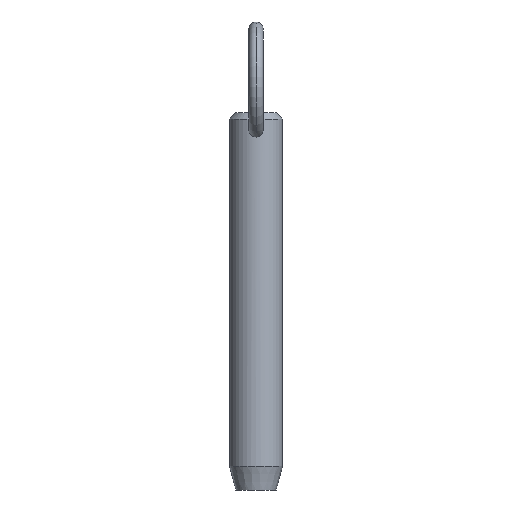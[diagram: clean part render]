
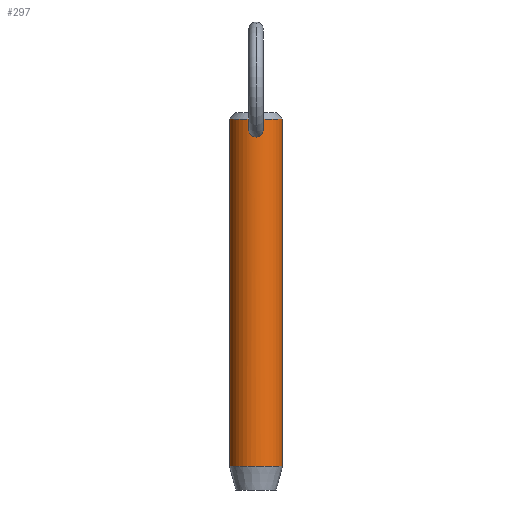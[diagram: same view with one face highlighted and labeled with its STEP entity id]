
A CAD part, front view. The second image highlights one B-rep face of the part: STEP entity #297.
In plain terms, the highlighted cylindrical face has radius 5.55 mm (diameter 11.1 mm), a partial arc.
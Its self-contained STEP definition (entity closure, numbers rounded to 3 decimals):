
#2 = VECTOR ( 'NONE', #19, 1000. ) ;
#5 = DIRECTION ( 'NONE',  ( 0., 0., 1. ) ) ;
#6 = CARTESIAN_POINT ( 'NONE',  ( -5.55, 0., 58.4 ) ) ;
#9 = CARTESIAN_POINT ( 'NONE',  ( -1.26, -5.407, 60.342 ) ) ;
#14 = CARTESIAN_POINT ( 'NONE',  ( 0.941, -5.471, 62.707 ) ) ;
#18 = CARTESIAN_POINT ( 'NONE',  ( -1.5, -5.343, 61.153 ) ) ;
#19 = DIRECTION ( 'NONE',  ( 0., 0., -1. ) ) ;
#21 = CARTESIAN_POINT ( 'NONE',  ( 0., -5.55, 63.145 ) ) ;
#23 = CARTESIAN_POINT ( 'NONE',  ( -1.503, -5.343, 61.259 ) ) ;
#26 = LINE ( 'NONE', #6, #390 ) ;
#28 = CARTESIAN_POINT ( 'NONE',  ( 1.486, -5.347, 61.574 ) ) ;
#35 = CIRCLE ( 'NONE', #317, 5.55 ) ;
#40 = DIRECTION ( 'NONE',  ( 0., 0., -1. ) ) ;
#41 = ORIENTED_EDGE ( 'NONE', *, *, #394, .T. ) ;
#42 = EDGE_CURVE ( 'NONE', #466, #81, #293, .T. ) ;
#49 = VERTEX_POINT ( 'NONE', #336 ) ;
#50 = CARTESIAN_POINT ( 'NONE',  ( -0.107, -5.55, 59.677 ) ) ;
#59 = CARTESIAN_POINT ( 'NONE',  ( 1.295, -5.397, 62.182 ) ) ;
#66 = CARTESIAN_POINT ( 'NONE',  ( 5.55, 0., 63.45 ) ) ;
#72 = ORIENTED_EDGE ( 'NONE', *, *, #140, .F. ) ;
#79 = ORIENTED_EDGE ( 'NONE', *, *, #174, .T. ) ;
#81 = VERTEX_POINT ( 'NONE', #500 ) ;
#99 = CARTESIAN_POINT ( 'NONE',  ( 0., 0., 58.4 ) ) ;
#105 = CARTESIAN_POINT ( 'NONE',  ( -0.416, -5.535, 63.067 ) ) ;
#106 = CARTESIAN_POINT ( 'NONE',  ( 0.515, -5.527, 63.022 ) ) ;
#112 = CYLINDRICAL_SURFACE ( 'NONE', #114, 5.55 ) ;
#114 = AXIS2_PLACEMENT_3D ( 'NONE', #99, #181, #258 ) ;
#118 = EDGE_CURVE ( 'NONE', #165, #331, #35, .T. ) ;
#130 = CARTESIAN_POINT ( 'NONE',  ( -5.55, 0., -9.2 ) ) ;
#140 = EDGE_CURVE ( 'NONE', #165, #81, #483, .T. ) ;
#145 = DIRECTION ( 'NONE',  ( 0., 0., -1. ) ) ;
#151 = ORIENTED_EDGE ( 'NONE', *, *, #344, .T. ) ;
#152 = CARTESIAN_POINT ( 'NONE',  ( -1.477, -5.35, 60.942 ) ) ;
#153 = CARTESIAN_POINT ( 'NONE',  ( 0., 0., 63.45 ) ) ;
#161 = B_SPLINE_CURVE_WITH_KNOTS ( 'NONE', 3,
 ( #218, #188, #262, #386, #106, #420, #14, #306, #59, #232, #28, #521, #429, #426, #477, #239, #393, #519, #278, #319, #281, #191, #320, #195, #234, #516 ),
 .UNSPECIFIED., .F., .F.,
 ( 4, 2, 2, 2, 2, 2, 2, 2, 2, 2, 2, 2, 4 ),
 ( 0.005, 0.005, 0.005, 0.006, 0.006, 0.007, 0.007, 0.008, 0.008, 0.009, 0.009, 0.009, 0.01 ),
 .UNSPECIFIED. ) ;
#165 = VERTEX_POINT ( 'NONE', #66 ) ;
#174 = EDGE_CURVE ( 'NONE', #391, #49, #161, .T. ) ;
#181 = DIRECTION ( 'NONE',  ( 0., 0., -1. ) ) ;
#188 = CARTESIAN_POINT ( 'NONE',  ( 0.106, -5.55, 63.145 ) ) ;
#189 = FACE_BOUND ( 'NONE', #486, .T. ) ;
#191 = CARTESIAN_POINT ( 'NONE',  ( 0.523, -5.526, 59.766 ) ) ;
#195 = CARTESIAN_POINT ( 'NONE',  ( 0.213, -5.547, 59.688 ) ) ;
#206 = AXIS2_PLACEMENT_3D ( 'NONE', #496, #5, #298 ) ;
#213 = FACE_OUTER_BOUND ( 'NONE', #294, .T. ) ;
#217 = CARTESIAN_POINT ( 'NONE',  ( 0., -5.55, 59.677 ) ) ;
#218 = CARTESIAN_POINT ( 'NONE',  ( 0., -5.55, 63.145 ) ) ;
#222 = CARTESIAN_POINT ( 'NONE',  ( -1.485, -5.348, 61.579 ) ) ;
#224 = CARTESIAN_POINT ( 'NONE',  ( -1.294, -5.398, 62.186 ) ) ;
#232 = CARTESIAN_POINT ( 'NONE',  ( 1.44, -5.36, 61.786 ) ) ;
#234 = CARTESIAN_POINT ( 'NONE',  ( 0.107, -5.55, 59.677 ) ) ;
#239 = CARTESIAN_POINT ( 'NONE',  ( 1.363, -5.38, 60.534 ) ) ;
#249 = CARTESIAN_POINT ( 'NONE',  ( 0., -5.55, 63.145 ) ) ;
#258 = DIRECTION ( 'NONE',  ( -1., 0., 0. ) ) ;
#259 = ORIENTED_EDGE ( 'NONE', *, *, #42, .T. ) ;
#261 = CARTESIAN_POINT ( 'NONE',  ( -0.807, -5.492, 59.905 ) ) ;
#262 = CARTESIAN_POINT ( 'NONE',  ( 0.214, -5.547, 63.128 ) ) ;
#270 = CARTESIAN_POINT ( 'NONE',  ( -1.455, -5.356, 60.836 ) ) ;
#278 = CARTESIAN_POINT ( 'NONE',  ( 0.977, -5.464, 60.032 ) ) ;
#281 = CARTESIAN_POINT ( 'NONE',  ( 0.716, -5.504, 59.852 ) ) ;
#293 = CIRCLE ( 'NONE', #206, 5.55 ) ;
#294 = EDGE_LOOP ( 'NONE', ( #72, #314, #41, #259 ) ) ;
#297 = ADVANCED_FACE ( 'NONE', ( #213, #189 ), #112, .T. ) ;
#298 = DIRECTION ( 'NONE',  ( -1., 0., 0. ) ) ;
#302 = CARTESIAN_POINT ( 'NONE',  ( -0.523, -5.526, 59.766 ) ) ;
#303 = CARTESIAN_POINT ( 'NONE',  ( -0.212, -5.547, 59.688 ) ) ;
#304 = CARTESIAN_POINT ( 'NONE',  ( -1.362, -5.381, 60.532 ) ) ;
#306 = CARTESIAN_POINT ( 'NONE',  ( 1.194, -5.422, 62.371 ) ) ;
#309 = CARTESIAN_POINT ( 'NONE',  ( -0.939, -5.472, 62.71 ) ) ;
#314 = ORIENTED_EDGE ( 'NONE', *, *, #118, .T. ) ;
#317 = AXIS2_PLACEMENT_3D ( 'NONE', #153, #145, #503 ) ;
#319 = CARTESIAN_POINT ( 'NONE',  ( 0.807, -5.492, 59.906 ) ) ;
#320 = CARTESIAN_POINT ( 'NONE',  ( 0.421, -5.535, 59.732 ) ) ;
#331 = VERTEX_POINT ( 'NONE', #407 ) ;
#336 = CARTESIAN_POINT ( 'NONE',  ( 0., -5.55, 59.677 ) ) ;
#339 = CARTESIAN_POINT ( 'NONE',  ( -0.716, -5.504, 59.852 ) ) ;
#343 = CARTESIAN_POINT ( 'NONE',  ( -1.44, -5.36, 61.787 ) ) ;
#344 = EDGE_CURVE ( 'NONE', #49, #391, #370, .T. ) ;
#347 = CARTESIAN_POINT ( 'NONE',  ( -0.513, -5.527, 63.023 ) ) ;
#353 = CARTESIAN_POINT ( 'NONE',  ( -0.211, -5.547, 63.129 ) ) ;
#370 = B_SPLINE_CURVE_WITH_KNOTS ( 'NONE', 3,
 ( #217, #50, #303, #499, #302, #339, #261, #413, #459, #9, #304, #270, #152, #18, #23, #222, #343, #224, #389, #309, #425, #347, #105, #353, #469, #21 ),
 .UNSPECIFIED., .F., .F.,
 ( 4, 2, 2, 2, 2, 2, 2, 2, 2, 2, 2, 2, 4 ),
 ( 0.01, 0.01, 0.01, 0.011, 0.011, 0.012, 0.012, 0.012, 0.013, 0.013, 0.014, 0.014, 0.015 ),
 .UNSPECIFIED. ) ;
#386 = CARTESIAN_POINT ( 'NONE',  ( 0.417, -5.535, 63.067 ) ) ;
#389 = CARTESIAN_POINT ( 'NONE',  ( -1.195, -5.421, 62.371 ) ) ;
#390 = VECTOR ( 'NONE', #40, 1000. ) ;
#391 = VERTEX_POINT ( 'NONE', #249 ) ;
#393 = CARTESIAN_POINT ( 'NONE',  ( 1.26, -5.407, 60.343 ) ) ;
#394 = EDGE_CURVE ( 'NONE', #331, #466, #26, .T. ) ;
#407 = CARTESIAN_POINT ( 'NONE',  ( -5.55, 0., 63.45 ) ) ;
#413 = CARTESIAN_POINT ( 'NONE',  ( -0.976, -5.464, 60.031 ) ) ;
#420 = CARTESIAN_POINT ( 'NONE',  ( 0.786, -5.497, 62.857 ) ) ;
#425 = CARTESIAN_POINT ( 'NONE',  ( -0.785, -5.497, 62.858 ) ) ;
#426 = CARTESIAN_POINT ( 'NONE',  ( 1.477, -5.35, 60.944 ) ) ;
#429 = CARTESIAN_POINT ( 'NONE',  ( 1.5, -5.343, 61.154 ) ) ;
#459 = CARTESIAN_POINT ( 'NONE',  ( -1.054, -5.449, 60.104 ) ) ;
#462 = CARTESIAN_POINT ( 'NONE',  ( 5.55, 0., 58.4 ) ) ;
#466 = VERTEX_POINT ( 'NONE', #130 ) ;
#469 = CARTESIAN_POINT ( 'NONE',  ( -0.106, -5.55, 63.145 ) ) ;
#477 = CARTESIAN_POINT ( 'NONE',  ( 1.455, -5.356, 60.838 ) ) ;
#483 = LINE ( 'NONE', #462, #2 ) ;
#486 = EDGE_LOOP ( 'NONE', ( #79, #151 ) ) ;
#496 = CARTESIAN_POINT ( 'NONE',  ( 0., 0., -9.2 ) ) ;
#499 = CARTESIAN_POINT ( 'NONE',  ( -0.42, -5.535, 59.732 ) ) ;
#500 = CARTESIAN_POINT ( 'NONE',  ( 5.55, 0., -9.2 ) ) ;
#503 = DIRECTION ( 'NONE',  ( 1., 0., 0. ) ) ;
#516 = CARTESIAN_POINT ( 'NONE',  ( 0., -5.55, 59.677 ) ) ;
#519 = CARTESIAN_POINT ( 'NONE',  ( 1.055, -5.449, 60.105 ) ) ;
#521 = CARTESIAN_POINT ( 'NONE',  ( 1.503, -5.343, 61.259 ) ) ;
